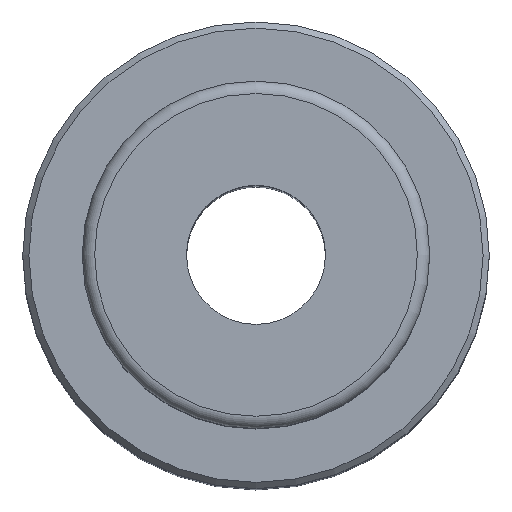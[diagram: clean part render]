
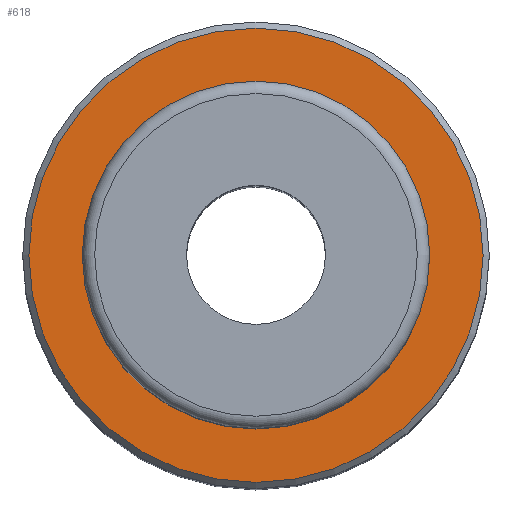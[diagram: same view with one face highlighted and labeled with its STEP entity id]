
A CAD part, top view. The second image highlights one B-rep face of the part: STEP entity #618.
In plain terms, the highlighted planar face has unit normal (0, 0, 1).
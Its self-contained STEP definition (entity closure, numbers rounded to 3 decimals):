
#511 = EDGE_CURVE('',#512,#512,#514,.T.);
#512 = VERTEX_POINT('',#513);
#513 = CARTESIAN_POINT('',(11.2,0.,126.));
#514 = CIRCLE('',#515,11.2);
#515 = AXIS2_PLACEMENT_3D('',#516,#517,#518);
#516 = CARTESIAN_POINT('',(0.,0.,126.));
#517 = DIRECTION('',(0.,0.,1.));
#518 = DIRECTION('',(1.,0.,0.));
#618 = ADVANCED_FACE('',(#619,#630),#633,.T.);
#619 = FACE_BOUND('',#620,.T.);
#620 = EDGE_LOOP('',(#621));
#621 = ORIENTED_EDGE('',*,*,#622,.T.);
#622 = EDGE_CURVE('',#623,#623,#625,.T.);
#623 = VERTEX_POINT('',#624);
#624 = CARTESIAN_POINT('',(36.6,0.,126.));
#625 = CIRCLE('',#626,36.6);
#626 = AXIS2_PLACEMENT_3D('',#627,#628,#629);
#627 = CARTESIAN_POINT('',(0.,0.,126.));
#628 = DIRECTION('',(0.,0.,1.));
#629 = DIRECTION('',(1.,0.,0.));
#630 = FACE_BOUND('',#631,.T.);
#631 = EDGE_LOOP('',(#632));
#632 = ORIENTED_EDGE('',*,*,#511,.F.);
#633 = PLANE('',#634);
#634 = AXIS2_PLACEMENT_3D('',#635,#636,#637);
#635 = CARTESIAN_POINT('',(0.,0.,126.));
#636 = DIRECTION('',(0.,0.,1.));
#637 = DIRECTION('',(1.,0.,0.));
